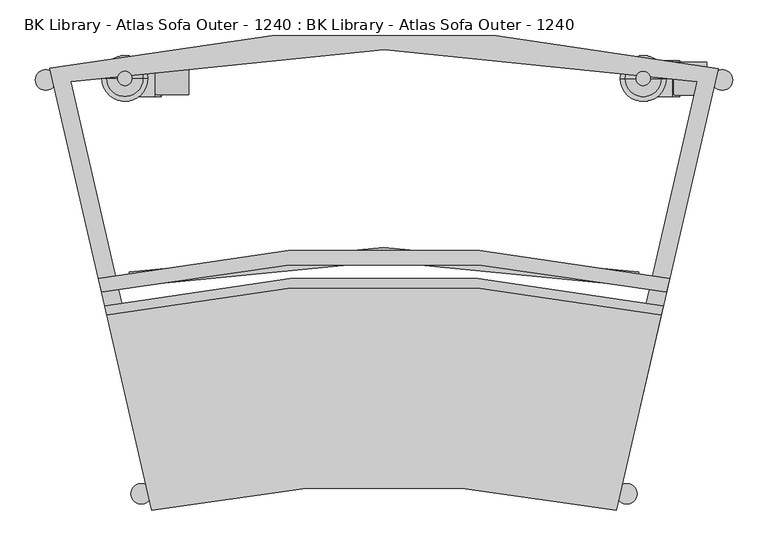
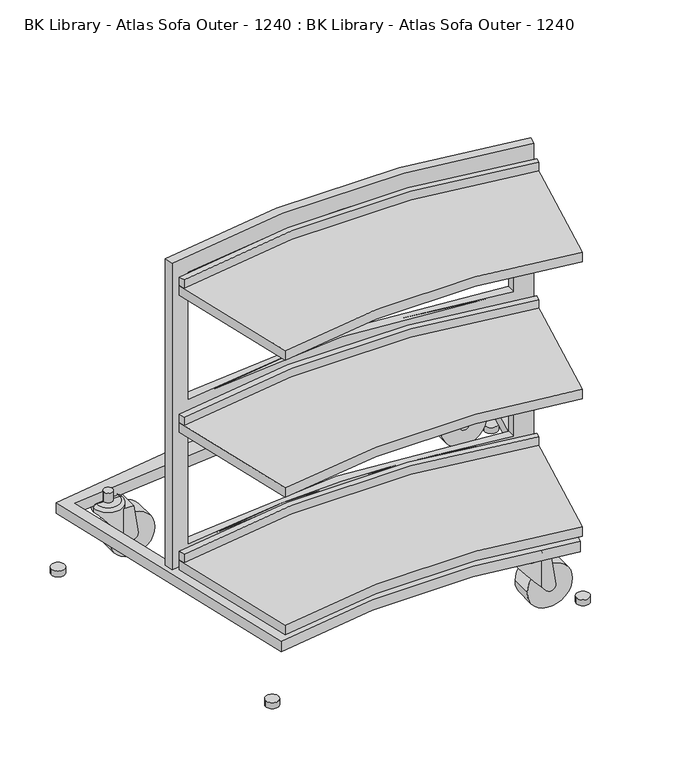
"""IFC4 building model written with IfcOpenShell, lengths in millimetres: furniture geometry, BK Library - Atlas Sofa Outer - 1240 : BK Library - Atlas Sofa Outer - 1240."""

from ifc_helpers import new_model, si_unit, point, frame, frame_2d, origin, origin_with_axes, place, context, project, spatial, polyline, circle_curve, ellipse_curve, trimmed, segment, composite_curve, outline, extrude, source, transform, mapped, element, save
from ifc_brep_helpers import plane_surface, cylinder_surface, revolved_surface, advanced_brep


def bk_library_atlas_sofa_outer_1240_bk_library_atlas_sofa_outer_c0599cd5(model_context):
    return source(origin(), model_context, "Body", "SolidModel", [
        advanced_brep(
        [(209.7505812, -241.350678, 113.1446696), (209.7505812, -267.2971978, 113.1446696), (207.0481733, -254.3239379, 113.1446696), (270.6212072, -279.8412398, 41.8401668), (290.9900774, -279.8412398, 51.0748876), (281.4730575, -279.8412398, 116.3900038), (259.6524577, -279.8412398, 116.3900038), (259.6524577, -279.8412398, 54.6890773), (281.4730575, -228.8995985, 116.3900038), (290.9900774, -228.8995985, 51.0748876), (270.6212072, -228.8995985, 41.8401668), (259.7698407, -228.8995985, 54.5515736), (259.7698407, -228.8995985, 116.3900038), (272.0303981, -254.3239379, 116.3900038), (270.6212072, -277.4827459, 41.8401668), (270.6212072, -231.2580924, 41.8401668), (262.422449, -231.2580924, 51.4442799), (268.358405, -239.3195801, 44.4908375), (268.358405, -254.3239379, 44.4908375), (268.358405, -269.3282957, 44.4908375), (262.328362, -277.4827459, 51.5544945), (290.9900774, -277.4827459, 51.0748876), (290.9900774, -231.2580924, 51.0748876), (281.8358742, -277.4827459, 113.8999998), (281.8358742, -231.2580924, 113.8999998), (262.328362, -277.4827459, 113.8999998), (272.0303981, -254.3239379, 113.8999998), (262.422449, -231.2580924, 113.8999998), (207.0481733, -254.3239379, 121.6226045), (272.0303981, -254.3239379, 121.6226045), (272.0303981, -254.3239379, 44.4908375), (265.0303981, -254.3239379, 128.6226045), (214.0481733, -254.3239379, 128.6226045), (239.5392857, -254.3239379, 128.6226045)],
        [
            (0, 1),
            (1, 2, circle_curve(frame((239.5392857, -254.3239379, 113.1446696), z_axis=(0.0, 0.0, -1.0), x_axis=(-1.0, 0.0, 0.0)), 32.4911124)),
            (2, 0, circle_curve(frame((239.5392857, -254.3239379, 113.1446696), z_axis=(0.0, 0.0, -1.0), x_axis=(-1.0, 0.0, 0.0)), 32.4911124)),
            (3, 4, circle_curve(frame((279.4730731, -279.8412398, 49.3967529), z_axis=(0.0, -1.0, 0.0), x_axis=(1.0, 0.0, 0.0)), 11.6386221)),
            (4, 5),
            (5, 6),
            (6, 7),
            (7, 3),
            (8, 9),
            (9, 10, circle_curve(frame((279.4730731, -228.8995985, 49.3967529), z_axis=(0.0, 1.0, 0.0), x_axis=(1.0, 0.0, 0.0)), 11.6386221)),
            (10, 11),
            (11, 12),
            (12, 8),
            (5, 8),
            (12, 13, circle_curve(frame((239.5392857, -254.3239379, 116.3900038), z_axis=(0.0, 0.0, -1.0), x_axis=(-1.0, 0.0, 0.0)), 32.4911124)),
            (13, 6, circle_curve(frame((239.5392857, -254.3239379, 116.3900038), z_axis=(0.0, 0.0, -1.0), x_axis=(-1.0, 0.0, 0.0)), 32.4911124)),
            (14, 3),
            (7, 1, ellipse_curve(frame((239.5392857, -254.3239379, 78.2498623), z_axis=(-0.7605596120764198, 0.0, -0.6492681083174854), x_axis=(0.6492681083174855, 0.0, -0.7605596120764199)), 50.0426742, 32.4911124)),
            (0, 11, ellipse_curve(frame((239.5392857, -254.3239379, 78.2498623), z_axis=(-0.7605596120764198, 0.0, -0.6492681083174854), x_axis=(0.6492681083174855, 0.0, -0.7605596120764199)), 50.0426742, 32.4911124)),
            (10, 15),
            (15, 16),
            (16, 17, ellipse_curve(frame((239.5392857, -254.3239379, 78.2498623), z_axis=(-0.7605596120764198, 0.0, -0.6492681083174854), x_axis=(0.6492681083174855, 0.0, -0.7605596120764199)), 50.0426742, 32.4911124)),
            (17, 18),
            (18, 19),
            (19, 20, ellipse_curve(frame((239.5392857, -254.3239379, 78.2498623), z_axis=(-0.7605596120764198, 0.0, -0.6492681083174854), x_axis=(0.6492681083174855, 0.0, -0.7605596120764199)), 50.0426742, 32.4911124)),
            (20, 14),
            (14, 21, circle_curve(frame((279.4730731, -277.4827459, 49.3967529), z_axis=(0.0, -1.0, 0.0), x_axis=(1.0, 0.0, 0.0)), 11.6386221)),
            (21, 4),
            (9, 22),
            (22, 15, circle_curve(frame((279.4730731, -231.2580924, 49.3967529), z_axis=(0.0, 1.0, 0.0), x_axis=(1.0, 0.0, 0.0)), 11.6386221)),
            (21, 23),
            (23, 24),
            (24, 22),
            (20, 25),
            (25, 23),
            (25, 26, circle_curve(frame((239.5392857, -254.3239379, 113.8999998), z_axis=(0.0, 0.0, 1.0), x_axis=(-1.0, 0.0, 0.0)), 32.4911124)),
            (26, 27, circle_curve(frame((239.5392857, -254.3239379, 113.8999998), z_axis=(0.0, 0.0, 1.0), x_axis=(-1.0, 0.0, 0.0)), 32.4911124)),
            (27, 24),
            (27, 16),
            (28, 29, circle_curve(frame((239.5392857, -254.3239379, 121.6226045), z_axis=(0.0, 0.0, -1.0), x_axis=(-1.0, 0.0, 0.0)), 32.4911124)),
            (29, 13),
            (2, 28),
            (26, 30),
            (30, 17, circle_curve(frame((239.5392857, -254.3239379, 44.4908375), z_axis=(0.0, 0.0, 1.0), x_axis=(-1.0, 0.0, 0.0)), 32.4911124)),
            (19, 30, circle_curve(frame((239.5392857, -254.3239379, 44.4908375), z_axis=(0.0, 0.0, 1.0), x_axis=(-1.0, 0.0, 0.0)), 32.4911124)),
            (29, 28, circle_curve(frame((239.5392857, -254.3239379, 121.6226045), z_axis=(0.0, 0.0, -1.0), x_axis=(-1.0, 0.0, 0.0)), 32.4911124)),
            (30, 18),
            (31, 32, circle_curve(frame((239.5392857, -254.3239379, 128.6226045), z_axis=(0.0, 0.0, 1.0), x_axis=(-1.0, 0.0, 0.0)), 25.4911124)),
            (32, 33),
            (33, 31),
            (32, 31, circle_curve(frame((239.5392857, -254.3239379, 128.6226045), z_axis=(0.0, 0.0, 1.0), x_axis=(-1.0, 0.0, 0.0)), 25.4911124)),
            (28, 32, circle_curve(frame((214.0481733, -254.3239379, 121.6226045), z_axis=(0.0, 1.0, 0.0), x_axis=(1.0, 0.0, 0.0)), 7.0)),
            (31, 29, circle_curve(frame((265.0303981, -254.3239379, 121.6226045), z_axis=(0.0, 1.0, 0.0), x_axis=(-1.0, 0.0, 0.0)), 7.0)),
        ],
        [
            plane_surface(frame((209.7505812, -336.8261814, 113.1446696), z_axis=(0.0, 0.0, -1.0), x_axis=(0.0, 1.0, 0.0))),
            plane_surface(frame((281.4730575, -279.8412398, 116.3900038), z_axis=(0.0, -1.0, 0.0), x_axis=(-1.0, 0.0, 0.0))),
            plane_surface(frame((281.4730575, -228.8995985, 116.3900038), z_axis=(0.0, 1.0, 0.0), x_axis=(1.0, 0.0, 0.0))),
            plane_surface(frame((281.4730575, -279.8412398, 116.3900038), z_axis=(0.0, 0.0, 1.0), x_axis=(0.0, 1.0, 0.0))),
            plane_surface(frame((236.4730575, -279.8412398, 81.8416749), z_axis=(-0.7605596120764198, 0.0, -0.6492681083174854), x_axis=(0.0, 1.0, 0.0))),
            cylinder_surface(frame((279.4730731, -228.8995985, 49.3967529), z_axis=(0.0, -1.0, 0.0), x_axis=(1.0, 0.0, 0.0)), 11.6386221),
            plane_surface(frame((290.9900774, -279.8412398, 51.0748876), z_axis=(0.9895505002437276, 0.0, 0.14418671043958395), x_axis=(0.0, 1.0, 0.0))),
            plane_surface(frame((305.0673642, -277.4827459, 113.8999998), z_axis=(0.0, 1.0, 0.0), x_axis=(-1.0, 0.0, 0.0))),
            plane_surface(frame((305.0673642, -231.2580924, 113.8999998), z_axis=(0.0, 0.0, -1.0), x_axis=(-1.0, 0.0, 0.0))),
            plane_surface(frame((305.0673642, -231.2580924, 11.6999998), z_axis=(0.0, -1.0, 0.0), x_axis=(-1.0, 0.0, 0.0))),
            cylinder_surface(frame((239.5392857, -254.3239379, 133.8335618), z_axis=(0.0, 0.0, -1.0), x_axis=(-1.0, 0.0, 0.0)), 32.4911124),
            plane_surface(frame((239.5392857, -254.3239379, 44.4908375), z_axis=(0.0, 0.0, -1.0), x_axis=(-1.0, 0.0, 0.0))),
            plane_surface(frame((239.5392857, -254.3239379, 128.6226045), z_axis=(0.0, 0.0, 1.0), x_axis=(-1.0, 0.0, 0.0))),
            revolved_surface(trimmed(ellipse_curve(frame((214.0481733, -254.3239379, 121.6226045), z_axis=(0.0, -1.0, 0.0), x_axis=(1.0, 0.0, 0.0)), 7.0, 7.0), [point((214.0481733, -254.3239379, 128.6226045))], [point((207.0481733, -254.3239379, 121.6226045))], True, "CARTESIAN"), (239.5392857, -254.3239379, 133.8335618), (0.0, 0.0, -1.0)),
        ],
        [
            (0, [[1, 2, 3]]),
            (1, [[4, 5, 6, 7, 8]]),
            (2, [[9, 10, 11, 12, 13]]),
            (3, [[14, -13, 15, 16, -6]]),
            (4, [[17, -8, 18, -1, 19, -11, 20, 21, 22, 23, 24, 25, 26]]),
            (5, [[-4, -17, 27, 28]]),
            (5, [[-10, 29, 30, -20]]),
            (6, [[-5, -28, 31, 32, 33, -29, -9, -14]]),
            (7, [[-27, -26, 34, 35, -31]]),
            (8, [[-32, -35, 36, 37, 38]]),
            (9, [[-30, -33, -38, 39, -21]]),
            (10, [[40, 41, -15, -12, -19, -3, 42]]),
            (10, [[43, 44, -22, -39, -37]]),
            (10, [[-43, -36, -34, -25, 45]]),
            (10, [[46, -42, -2, -18, -7, -16, -41]]),
            (11, [[-44, 47, -23]]),
            (11, [[-47, -45, -24]]),
            (12, [[48, 49, 50]]),
            (12, [[-49, 51, -50]]),
            (13, [[-40, 52, -48, 53]]),
            (13, [[-46, -53, -51, -52]]),
        ],
    ),
        extrude(outline(composite_curve([segment(trimmed(circle_curve(frame_2d((49.3999998, 279.5548478)), 50.0), [point((49.3999998, 229.5548478))], [point((49.3999998, 329.5548478))], False, "CARTESIAN"), True, "CONTINUOUS"), segment(trimmed(circle_curve(frame_2d((49.3999998, 279.5548478)), 50.0), [point((49.3999998, 329.5548478))], [point((49.3999998, 229.5548478))], False, "CARTESIAN"), True, "CONTINUOUS")], self_intersect=False)), frame((0.0, -277.4827459, 0.0), z_axis=(0.0, 1.0, 0.0), x_axis=(0.0, 0.0, 1.0)), (0.0, 0.0, 1.0), 46.2857127),
        extrude(outline(composite_curve([segment(trimmed(circle_curve(frame_2d((239.5392857, -254.3548557)), 10.0), [point((229.5392857, -254.3548557))], [point((249.5392857, -254.3548557))], False, "CARTESIAN"), True, "CONTINUOUS"), segment(trimmed(circle_curve(frame_2d((239.5392857, -254.3548557)), 10.0), [point((249.5392857, -254.3548557))], [point((229.5392857, -254.3548557))], False, "CARTESIAN"), True, "CONTINUOUS")], self_intersect=False)), frame((0.0, 0.0, 126.1999998), z_axis=(0.0, 0.0, 1.0), x_axis=(1.0, 0.0, 0.0)), (0.0, 0.0, 1.0), 24.8998986),
        advanced_brep(
        [(336.1023802, 305.2827462, 113.1446696), (336.1023802, 279.3362264, 113.1446696), (333.3999722, 292.3094863, 113.1446696), (396.9730061, 266.7921844, 41.8401668), (417.3418763, 266.7921844, 51.0748876), (407.8248565, 266.7921844, 116.3900038), (386.0042567, 266.7921844, 116.3900038), (386.0042567, 266.7921844, 54.6890773), (407.8248565, 317.7338257, 116.3900038), (417.3418763, 317.7338257, 51.0748876), (396.9730061, 317.7338257, 41.8401668), (386.1216397, 317.7338257, 54.5515736), (386.1216397, 317.7338257, 116.3900038), (398.3821971, 292.3094863, 116.3900038), (396.9730061, 269.1506783, 41.8401668), (396.9730061, 315.3753318, 41.8401668), (388.7742479, 315.3753318, 51.4442799), (394.7102039, 307.3138441, 44.4908375), (394.7102039, 292.3094863, 44.4908375), (394.7102039, 277.3051285, 44.4908375), (388.6801609, 269.1506783, 51.5544945), (417.3418763, 269.1506783, 51.0748876), (417.3418763, 315.3753318, 51.0748876), (408.1876732, 269.1506783, 113.8999998), (408.1876732, 315.3753318, 113.8999998), (388.6801609, 269.1506783, 113.8999998), (398.3821971, 292.3094863, 113.8999998), (388.7742479, 315.3753318, 113.8999998), (333.3999722, 292.3094863, 121.6226045), (398.3821971, 292.3094863, 121.6226045), (398.3821971, 292.3094863, 44.4908375), (391.3821971, 292.3094863, 128.6226045), (340.3999722, 292.3094863, 128.6226045), (365.8910847, 292.3094863, 128.6226045)],
        [
            (0, 1),
            (1, 2, circle_curve(frame((365.8910847, 292.3094863, 113.1446696), z_axis=(0.0, 0.0, -1.0), x_axis=(-1.0, 0.0, 0.0)), 32.4911124)),
            (2, 0, circle_curve(frame((365.8910847, 292.3094863, 113.1446696), z_axis=(0.0, 0.0, -1.0), x_axis=(-1.0, 0.0, 0.0)), 32.4911124)),
            (3, 4, circle_curve(frame((405.824872, 266.7921844, 49.3967529), z_axis=(0.0, -1.0, 0.0), x_axis=(1.0, 0.0, 0.0)), 11.6386221)),
            (4, 5),
            (5, 6),
            (6, 7),
            (7, 3),
            (8, 9),
            (9, 10, circle_curve(frame((405.824872, 317.7338257, 49.3967529), z_axis=(0.0, 1.0, 0.0), x_axis=(1.0, 0.0, 0.0)), 11.6386221)),
            (10, 11),
            (11, 12),
            (12, 8),
            (5, 8),
            (12, 13, circle_curve(frame((365.8910847, 292.3094863, 116.3900038), z_axis=(0.0, 0.0, -1.0), x_axis=(-1.0, 0.0, 0.0)), 32.4911124)),
            (13, 6, circle_curve(frame((365.8910847, 292.3094863, 116.3900038), z_axis=(0.0, 0.0, -1.0), x_axis=(-1.0, 0.0, 0.0)), 32.4911124)),
            (14, 3),
            (7, 1, ellipse_curve(frame((365.8910847, 292.3094863, 78.2498623), z_axis=(-0.76055961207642, 0.0, -0.649268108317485), x_axis=(0.649268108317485, 0.0, -0.76055961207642)), 50.0426742, 32.4911124)),
            (0, 11, ellipse_curve(frame((365.8910847, 292.3094863, 78.2498623), z_axis=(-0.76055961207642, 0.0, -0.649268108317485), x_axis=(0.649268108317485, 0.0, -0.76055961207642)), 50.0426742, 32.4911124)),
            (10, 15),
            (15, 16),
            (16, 17, ellipse_curve(frame((365.8910847, 292.3094863, 78.2498623), z_axis=(-0.76055961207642, 0.0, -0.649268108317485), x_axis=(0.649268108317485, 0.0, -0.76055961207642)), 50.0426742, 32.4911124)),
            (17, 18),
            (18, 19),
            (19, 20, ellipse_curve(frame((365.8910847, 292.3094863, 78.2498623), z_axis=(-0.76055961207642, 0.0, -0.649268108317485), x_axis=(0.649268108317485, 0.0, -0.76055961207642)), 50.0426742, 32.4911124)),
            (20, 14),
            (14, 21, circle_curve(frame((405.824872, 269.1506783, 49.3967529), z_axis=(0.0, -1.0, 0.0), x_axis=(1.0, 0.0, 0.0)), 11.6386221)),
            (21, 4),
            (9, 22),
            (22, 15, circle_curve(frame((405.824872, 315.3753318, 49.3967529), z_axis=(0.0, 1.0, 0.0), x_axis=(1.0, 0.0, 0.0)), 11.6386221)),
            (21, 23),
            (23, 24),
            (24, 22),
            (20, 25),
            (25, 23),
            (25, 26, circle_curve(frame((365.8910847, 292.3094863, 113.8999998), z_axis=(0.0, 0.0, 1.0), x_axis=(-1.0, 0.0, 0.0)), 32.4911124)),
            (26, 27, circle_curve(frame((365.8910847, 292.3094863, 113.8999998), z_axis=(0.0, 0.0, 1.0), x_axis=(-1.0, 0.0, 0.0)), 32.4911124)),
            (27, 24),
            (27, 16),
            (28, 29, circle_curve(frame((365.8910847, 292.3094863, 121.6226045), z_axis=(0.0, 0.0, -1.0), x_axis=(-1.0, 0.0, 0.0)), 32.4911124)),
            (29, 13),
            (2, 28),
            (26, 30),
            (30, 17, circle_curve(frame((365.8910847, 292.3094863, 44.4908375), z_axis=(0.0, 0.0, 1.0), x_axis=(-1.0, 0.0, 0.0)), 32.4911124)),
            (19, 30, circle_curve(frame((365.8910847, 292.3094863, 44.4908375), z_axis=(0.0, 0.0, 1.0), x_axis=(-1.0, 0.0, 0.0)), 32.4911124)),
            (29, 28, circle_curve(frame((365.8910847, 292.3094863, 121.6226045), z_axis=(0.0, 0.0, -1.0), x_axis=(-1.0, 0.0, 0.0)), 32.4911124)),
            (30, 18),
            (31, 32, circle_curve(frame((365.8910847, 292.3094863, 128.6226045), z_axis=(0.0, 0.0, 1.0), x_axis=(-1.0, 0.0, 0.0)), 25.4911124)),
            (32, 33),
            (33, 31),
            (32, 31, circle_curve(frame((365.8910847, 292.3094863, 128.6226045), z_axis=(0.0, 0.0, 1.0), x_axis=(-1.0, 0.0, 0.0)), 25.4911124)),
            (28, 32, circle_curve(frame((340.3999722, 292.3094863, 121.6226045), z_axis=(0.0, 1.0, 0.0), x_axis=(1.0, 0.0, 0.0)), 7.0)),
            (31, 29, circle_curve(frame((391.3821971, 292.3094863, 121.6226045), z_axis=(0.0, 1.0, 0.0), x_axis=(-1.0, 0.0, 0.0)), 7.0)),
        ],
        [
            plane_surface(frame((336.1023802, 209.8072428, 113.1446696), z_axis=(0.0, 0.0, -1.0), x_axis=(0.0, 1.0, 0.0))),
            plane_surface(frame((407.8248565, 266.7921844, 116.3900038), z_axis=(0.0, -1.0, 0.0), x_axis=(-1.0, 0.0, 0.0))),
            plane_surface(frame((407.8248565, 317.7338257, 116.3900038), z_axis=(0.0, 1.0, 0.0), x_axis=(1.0, 0.0, 0.0))),
            plane_surface(frame((407.8248565, 266.7921844, 116.3900038), z_axis=(0.0, 0.0, 1.0), x_axis=(0.0, 1.0, 0.0))),
            plane_surface(frame((362.8248565, 266.7921844, 81.8416749), z_axis=(-0.76055961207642, 0.0, -0.649268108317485), x_axis=(0.0, 1.0, 0.0))),
            cylinder_surface(frame((405.824872, 317.7338257, 49.3967529), z_axis=(0.0, -1.0, 0.0), x_axis=(1.0, 0.0, 0.0)), 11.6386221),
            plane_surface(frame((417.3418763, 266.7921844, 51.0748876), z_axis=(0.9895505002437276, 0.0, 0.14418671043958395), x_axis=(0.0, 1.0, 0.0))),
            plane_surface(frame((431.4191632, 269.1506783, 113.8999998), z_axis=(0.0, 1.0, 0.0), x_axis=(-1.0, 0.0, 0.0))),
            plane_surface(frame((431.4191632, 315.3753318, 113.8999998), z_axis=(0.0, 0.0, -1.0), x_axis=(-1.0, 0.0, 0.0))),
            plane_surface(frame((431.4191632, 315.3753318, 11.6999998), z_axis=(0.0, -1.0, 0.0), x_axis=(-1.0, 0.0, 0.0))),
            cylinder_surface(frame((365.8910847, 292.3094863, 133.8335618), z_axis=(0.0, 0.0, -1.0), x_axis=(-1.0, 0.0, 0.0)), 32.4911124),
            plane_surface(frame((365.8910847, 292.3094863, 44.4908375), z_axis=(0.0, 0.0, -1.0), x_axis=(-1.0, 0.0, 0.0))),
            plane_surface(frame((365.8910847, 292.3094863, 128.6226045), z_axis=(0.0, 0.0, 1.0), x_axis=(-1.0, 0.0, 0.0))),
            revolved_surface(trimmed(ellipse_curve(frame((340.3999722, 292.3094863, 121.6226045), z_axis=(0.0, -1.0, 0.0), x_axis=(1.0, 0.0, 0.0)), 7.0, 7.0), [point((340.3999722, 292.3094863, 128.6226045))], [point((333.3999722, 292.3094863, 121.6226045))], True, "CARTESIAN"), (365.8910847, 292.3094863, 133.8335618), (0.0, 0.0, -1.0)),
        ],
        [
            (0, [[1, 2, 3]]),
            (1, [[4, 5, 6, 7, 8]]),
            (2, [[9, 10, 11, 12, 13]]),
            (3, [[14, -13, 15, 16, -6]]),
            (4, [[17, -8, 18, -1, 19, -11, 20, 21, 22, 23, 24, 25, 26]]),
            (5, [[-4, -17, 27, 28]]),
            (5, [[-10, 29, 30, -20]]),
            (6, [[-5, -28, 31, 32, 33, -29, -9, -14]]),
            (7, [[-27, -26, 34, 35, -31]]),
            (8, [[-32, -35, 36, 37, 38]]),
            (9, [[-30, -33, -38, 39, -21]]),
            (10, [[40, 41, -15, -12, -19, -3, 42]]),
            (10, [[43, 44, -22, -39, -37]]),
            (10, [[-43, -36, -34, -25, 45]]),
            (10, [[46, -42, -2, -18, -7, -16, -41]]),
            (11, [[-44, 47, -23]]),
            (11, [[-47, -45, -24]]),
            (12, [[48, 49, 50]]),
            (12, [[-49, 51, -50]]),
            (13, [[-40, 52, -48, 53]]),
            (13, [[-46, -53, -51, -52]]),
        ],
    ),
        extrude(outline(composite_curve([segment(trimmed(circle_curve(frame_2d((49.3999998, 405.9066468)), 50.0), [point((49.3999998, 355.9066468))], [point((49.3999998, 455.9066468))], False, "CARTESIAN"), True, "CONTINUOUS"), segment(trimmed(circle_curve(frame_2d((49.3999998, 405.9066468)), 50.0), [point((49.3999998, 455.9066468))], [point((49.3999998, 355.9066468))], False, "CARTESIAN"), True, "CONTINUOUS")], self_intersect=False)), frame((0.0, 269.1506783, 0.0), z_axis=(0.0, 1.0, 0.0), x_axis=(0.0, 0.0, 1.0)), (0.0, 0.0, 1.0), 46.2857127),
        extrude(outline(composite_curve([segment(trimmed(circle_curve(frame_2d((49.3999998, -325.7608412)), 50.0), [point((49.3999998, -375.7608412))], [point((49.3999998, -275.7608412))], False, "CARTESIAN"), True, "CONTINUOUS"), segment(trimmed(circle_curve(frame_2d((49.3999998, -325.7608412)), 50.0), [point((49.3999998, -275.7608412))], [point((49.3999998, -375.7608412))], False, "CARTESIAN"), True, "CONTINUOUS")], self_intersect=False)), frame((0.0, 269.3422284, 0.0), z_axis=(0.0, 1.0, 0.0), x_axis=(0.0, 0.0, 1.0)), (0.0, 0.0, 1.0), 46.2857127),
        extrude(outline(composite_curve([segment(trimmed(circle_curve(frame_2d((365.8910847, 292.2785685)), 10.0), [point((355.8910847, 292.2785685))], [point((375.8910847, 292.2785685))], False, "CARTESIAN"), True, "CONTINUOUS"), segment(trimmed(circle_curve(frame_2d((365.8910847, 292.2785685)), 10.0), [point((375.8910847, 292.2785685))], [point((355.8910847, 292.2785685))], False, "CARTESIAN"), True, "CONTINUOUS")], self_intersect=False)), frame((0.0, 0.0, 126.1999998), z_axis=(0.0, 0.0, 1.0), x_axis=(1.0, 0.0, 0.0)), (0.0, 0.0, 1.0), 24.8998986),
        advanced_brep(
        [(-334.6944819, 266.9837345, 41.8401668), (-314.3256117, 266.9837345, 51.0748876), (-323.8426315, 266.9837345, 116.3900038), (-345.6632313, 266.9837345, 116.3900038), (-345.6632313, 266.9837345, 54.6890773), (-323.8426315, 317.9253758, 116.3900038), (-314.3256117, 317.9253758, 51.0748876), (-334.6944819, 317.9253758, 41.8401668), (-345.5458483, 317.9253758, 54.5515736), (-345.5458483, 317.9253758, 116.3900038), (-333.2852909, 292.5010364, 116.3900038), (-334.6944819, 269.3422284, 41.8401668), (-395.5651078, 279.5277766, 113.1446696), (-395.5651078, 305.4742963, 113.1446696), (-334.6944819, 315.5668819, 41.8401668), (-342.89324, 315.5668819, 51.4442799), (-336.9572841, 307.5053942, 44.4908375), (-336.9572841, 292.5010364, 44.4908375), (-336.9572841, 277.4966786, 44.4908375), (-342.9873271, 269.3422284, 51.5544945), (-314.3256117, 269.3422284, 51.0748876), (-314.3256117, 315.5668819, 51.0748876), (-323.4798148, 269.3422284, 113.8999998), (-323.4798148, 315.5668819, 113.8999998), (-342.9873271, 269.3422284, 113.8999998), (-333.2852909, 292.5010364, 113.8999998), (-342.89324, 315.5668819, 113.8999998), (-398.2675157, 292.5010364, 121.6226045), (-333.2852909, 292.5010364, 121.6226045), (-398.2675157, 292.5010364, 113.1446696), (-333.2852909, 292.5010364, 44.4908375), (-340.2852909, 292.5010364, 128.6226045), (-391.2675157, 292.5010364, 128.6226045), (-365.7764033, 292.5010364, 128.6226045)],
        [
            (0, 1, circle_curve(frame((-325.842616, 266.9837345, 49.3967529), z_axis=(0.0, -1.0, 0.0), x_axis=(1.0, 0.0, 0.0)), 11.6386221)),
            (1, 2),
            (2, 3),
            (3, 4),
            (4, 0),
            (5, 6),
            (6, 7, circle_curve(frame((-325.842616, 317.9253758, 49.3967529), z_axis=(0.0, 1.0, 0.0), x_axis=(1.0, 0.0, 0.0)), 11.6386221)),
            (7, 8),
            (8, 9),
            (9, 5),
            (2, 5),
            (9, 10, circle_curve(frame((-365.7764033, 292.5010364, 116.3900038), z_axis=(0.0, 0.0, -1.0), x_axis=(-1.0, 0.0, 0.0)), 32.4911124)),
            (10, 3, circle_curve(frame((-365.7764033, 292.5010364, 116.3900038), z_axis=(0.0, 0.0, -1.0), x_axis=(-1.0, 0.0, 0.0)), 32.4911124)),
            (11, 0),
            (4, 12, ellipse_curve(frame((-365.7764033, 292.5010364, 78.2498623), z_axis=(-0.76055961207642, 0.0, -0.649268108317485), x_axis=(0.649268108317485, 0.0, -0.76055961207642)), 50.0426742, 32.4911124)),
            (12, 13),
            (13, 8, ellipse_curve(frame((-365.7764033, 292.5010364, 78.2498623), z_axis=(-0.76055961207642, 0.0, -0.649268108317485), x_axis=(0.649268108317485, 0.0, -0.76055961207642)), 50.0426742, 32.4911124)),
            (7, 14),
            (14, 15),
            (15, 16, ellipse_curve(frame((-365.7764033, 292.5010364, 78.2498623), z_axis=(-0.76055961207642, 0.0, -0.649268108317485), x_axis=(0.649268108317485, 0.0, -0.76055961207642)), 50.0426742, 32.4911124)),
            (16, 17),
            (17, 18),
            (18, 19, ellipse_curve(frame((-365.7764033, 292.5010364, 78.2498623), z_axis=(-0.76055961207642, 0.0, -0.649268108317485), x_axis=(0.649268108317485, 0.0, -0.76055961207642)), 50.0426742, 32.4911124)),
            (19, 11),
            (11, 20, circle_curve(frame((-325.842616, 269.3422284, 49.3967529), z_axis=(0.0, -1.0, 0.0), x_axis=(1.0, 0.0, 0.0)), 11.6386221)),
            (20, 1),
            (6, 21),
            (21, 14, circle_curve(frame((-325.842616, 315.5668819, 49.3967529), z_axis=(0.0, 1.0, 0.0), x_axis=(1.0, 0.0, 0.0)), 11.6386221)),
            (20, 22),
            (22, 23),
            (23, 21),
            (19, 24),
            (24, 22),
            (24, 25, circle_curve(frame((-365.7764033, 292.5010364, 113.8999998), z_axis=(0.0, 0.0, 1.0), x_axis=(-1.0, 0.0, 0.0)), 32.4911124)),
            (25, 26, circle_curve(frame((-365.7764033, 292.5010364, 113.8999998), z_axis=(0.0, 0.0, 1.0), x_axis=(-1.0, 0.0, 0.0)), 32.4911124)),
            (26, 23),
            (26, 15),
            (27, 28, circle_curve(frame((-365.7764033, 292.5010364, 121.6226045), z_axis=(0.0, 0.0, -1.0), x_axis=(-1.0, 0.0, 0.0)), 32.4911124)),
            (28, 10),
            (13, 29, circle_curve(frame((-365.7764033, 292.5010364, 113.1446696), z_axis=(0.0, 0.0, 1.0), x_axis=(-1.0, 0.0, 0.0)), 32.4911124)),
            (29, 27),
            (30, 16, circle_curve(frame((-365.7764033, 292.5010364, 44.4908375), z_axis=(0.0, 0.0, 1.0), x_axis=(-1.0, 0.0, 0.0)), 32.4911124)),
            (25, 30),
            (28, 27, circle_curve(frame((-365.7764033, 292.5010364, 121.6226045), z_axis=(0.0, 0.0, -1.0), x_axis=(-1.0, 0.0, 0.0)), 32.4911124)),
            (29, 12, circle_curve(frame((-365.7764033, 292.5010364, 113.1446696), z_axis=(0.0, 0.0, 1.0), x_axis=(-1.0, 0.0, 0.0)), 32.4911124)),
            (18, 30, circle_curve(frame((-365.7764033, 292.5010364, 44.4908375), z_axis=(0.0, 0.0, 1.0), x_axis=(-1.0, 0.0, 0.0)), 32.4911124)),
            (30, 17),
            (31, 32, circle_curve(frame((-365.7764033, 292.5010364, 128.6226045), z_axis=(0.0, 0.0, 1.0), x_axis=(-1.0, 0.0, 0.0)), 25.4911124)),
            (32, 33),
            (33, 31),
            (32, 31, circle_curve(frame((-365.7764033, 292.5010364, 128.6226045), z_axis=(0.0, 0.0, 1.0), x_axis=(-1.0, 0.0, 0.0)), 25.4911124)),
            (27, 32, circle_curve(frame((-391.2675157, 292.5010364, 121.6226045), z_axis=(0.0, 1.0, 0.0), x_axis=(1.0, 0.0, 0.0)), 7.0)),
            (31, 28, circle_curve(frame((-340.2852909, 292.5010364, 121.6226045), z_axis=(0.0, 1.0, 0.0), x_axis=(-1.0, 0.0, 0.0)), 7.0)),
        ],
        [
            plane_surface(frame((-323.8426315, 266.9837345, 116.3900038), z_axis=(0.0, -1.0, 0.0), x_axis=(-1.0, 0.0, 0.0))),
            plane_surface(frame((-323.8426315, 317.9253758, 116.3900038), z_axis=(0.0, 1.0, 0.0), x_axis=(1.0, 0.0, 0.0))),
            plane_surface(frame((-323.8426315, 266.9837345, 116.3900038), z_axis=(0.0, 0.0, 1.0), x_axis=(0.0, 1.0, 0.0))),
            plane_surface(frame((-368.8426315, 266.9837345, 81.8416749), z_axis=(-0.76055961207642, 0.0, -0.649268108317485), x_axis=(0.0, 1.0, 0.0))),
            cylinder_surface(frame((-325.842616, 317.9253758, 49.3967529), z_axis=(0.0, -1.0, 0.0), x_axis=(1.0, 0.0, 0.0)), 11.6386221),
            plane_surface(frame((-314.3256117, 266.9837345, 51.0748876), z_axis=(0.9895505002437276, 0.0, 0.14418671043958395), x_axis=(0.0, 1.0, 0.0))),
            plane_surface(frame((-300.2483248, 269.3422284, 113.8999998), z_axis=(0.0, 1.0, 0.0), x_axis=(-1.0, 0.0, 0.0))),
            plane_surface(frame((-300.2483248, 315.5668819, 113.8999998), z_axis=(0.0, 0.0, -1.0), x_axis=(-1.0, 0.0, 0.0))),
            plane_surface(frame((-300.2483248, 315.5668819, 11.6999998), z_axis=(0.0, -1.0, 0.0), x_axis=(-1.0, 0.0, 0.0))),
            cylinder_surface(frame((-365.7764033, 292.5010364, 133.8335618), z_axis=(0.0, 0.0, -1.0), x_axis=(-1.0, 0.0, 0.0)), 32.4911124),
            plane_surface(frame((-365.7764033, 292.5010364, 44.4908375), z_axis=(0.0, 0.0, -1.0), x_axis=(-1.0, 0.0, 0.0))),
            plane_surface(frame((-365.7764033, 292.5010364, 128.6226045), z_axis=(0.0, 0.0, 1.0), x_axis=(-1.0, 0.0, 0.0))),
            revolved_surface(trimmed(ellipse_curve(frame((-391.2675157, 292.5010364, 121.6226045), z_axis=(0.0, -1.0, 0.0), x_axis=(1.0, 0.0, 0.0)), 7.0, 7.0), [point((-391.2675157, 292.5010364, 128.6226045))], [point((-398.2675157, 292.5010364, 121.6226045))], True, "CARTESIAN"), (-365.7764033, 292.5010364, 133.8335618), (0.0, 0.0, -1.0)),
            plane_surface(frame((-395.5651078, 209.9987929, 113.1446696), z_axis=(0.0, 0.0, -1.0), x_axis=(0.0, 1.0, 0.0))),
        ],
        [
            (0, [[1, 2, 3, 4, 5]]),
            (1, [[6, 7, 8, 9, 10]]),
            (2, [[11, -10, 12, 13, -3]]),
            (3, [[14, -5, 15, 16, 17, -8, 18, 19, 20, 21, 22, 23, 24]]),
            (4, [[-1, -14, 25, 26]]),
            (4, [[-7, 27, 28, -18]]),
            (5, [[-2, -26, 29, 30, 31, -27, -6, -11]]),
            (6, [[-25, -24, 32, 33, -29]]),
            (7, [[-30, -33, 34, 35, 36]]),
            (8, [[-28, -31, -36, 37, -19]]),
            (9, [[38, 39, -12, -9, -17, 40, 41]]),
            (9, [[42, -20, -37, -35, 43]]),
            (9, [[44, -41, 45, -15, -4, -13, -39]]),
            (9, [[46, -43, -34, -32, -23]]),
            (10, [[-42, 47, -21]]),
            (10, [[-47, -46, -22]]),
            (11, [[48, 49, 50]]),
            (11, [[-49, 51, -50]]),
            (12, [[-38, 52, -48, 53]]),
            (12, [[-44, -53, -51, -52]]),
            (13, [[-16, -45, -40]]),
        ],
    ),
        extrude(outline(composite_curve([segment(trimmed(circle_curve(frame_2d((-365.7764033, 292.4701186)), 10.0), [point((-375.7764033, 292.4701186))], [point((-355.7764033, 292.4701186))], False, "CARTESIAN"), True, "CONTINUOUS"), segment(trimmed(circle_curve(frame_2d((-365.7764033, 292.4701186)), 10.0), [point((-355.7764033, 292.4701186))], [point((-375.7764033, 292.4701186))], False, "CARTESIAN"), True, "CONTINUOUS")], self_intersect=False)), frame((0.0, 0.0, 126.1999998), z_axis=(0.0, 0.0, 1.0), x_axis=(1.0, 0.0, 0.0)), (0.0, 0.0, 1.0), 24.8998986),
        extrude(outline(composite_curve([segment(trimmed(circle_curve(frame_2d((-0.1289567, -1789.54304)), 2148.52767), [point((-471.6391631, 306.6080219))], [point((471.6410197, 306.549572))], False, "CARTESIAN"), True, "CONTINUOUS"), segment(polyline([(471.6410197, 306.549572), (330.6052405, -305.0739935)]), True, "CONTINUOUS"), segment(trimmed(circle_curve(frame_2d((5.2928449, -1828.3638627)), 1557.6392973), [point((330.6052405, -305.0739935))], [point((-330.0861441, -307.2586348))], True, "CARTESIAN"), True, "CONTINUOUS"), segment(polyline([(-330.0861441, -307.2586348), (-471.6391631, 306.6080219)]), True, "CONTINUOUS")], self_intersect=False), holes=[composite_curve([segment(trimmed(circle_curve(frame_2d((0.0, -1803.8543755)), 1557.9492408), [point((-311.3398697, -277.3310961))], [point((311.3398697, -277.3310961))], False, "CARTESIAN"), True, "CONTINUOUS"), segment(polyline([(311.3398697, -277.3310961), (441.81755, 287.9820793)]), True, "CONTINUOUS"), segment(trimmed(circle_curve(frame_2d((0.0, -1860.8084472)), 2193.7418887), [point((441.81755, 287.9820793))], [point((-441.81755, 287.9820793))], True, "CARTESIAN"), True, "CONTINUOUS"), segment(polyline([(-441.81755, 287.9820793), (-311.3398697, -277.3310961)]), True, "CONTINUOUS")], self_intersect=False)]), frame((0.0, 0.0, 126.2197818), z_axis=(0.0, 0.0, 1.0), x_axis=(1.0, 0.0, 0.0)), (0.0, 0.0, 1.0), 24.8801166),
        advanced_brep(
        [(-403.1922937, 9.7442892, 876.1999998), (-398.6983746, -9.7442892, 876.1999998), (398.6983746, -9.7442892, 876.1999998), (403.1922937, 9.7442892, 876.1999998), (-403.1922937, 9.7442892, 161.1999998), (403.1922937, 9.7442892, 161.1999998), (398.6983746, -9.7442892, 161.1999998), (-398.6983746, -9.7442892, 161.1999998), (359.7000463, -1.6061954, 836.1999998), (359.7000463, -1.6061954, 538.6999998), (-359.7212176, -1.6103769, 538.6999998), (-359.7212176, -1.6103769, 836.1999998), (-359.7212176, -1.6103769, 498.6999998), (359.7000463, -1.6061954, 498.6999998), (359.7000463, -1.6061954, 201.1999998), (-359.7212176, -1.6103769, 201.1999998), (359.7000463, 18.8192746, 538.6999998), (359.7000463, 18.8192746, 836.1999998), (-359.7212176, 18.8151191, 836.1999998), (-359.7212176, 18.8151191, 538.6999998), (359.7000463, 18.8192746, 498.6999998), (-359.7212176, 18.8151191, 498.6999998), (-359.7212176, 18.8151191, 201.1999998), (359.7000463, 18.8192746, 201.1999998)],
        [
            (0, 1),
            (1, 2, circle_curve(frame((0.0, -1822.824997, 876.1999998), z_axis=(0.0, 0.0, -1.0), x_axis=(1.0, 0.0, 0.0)), 1856.4002927)),
            (2, 3),
            (3, 0, circle_curve(frame((0.0, -1813.8149651, 876.1999998), z_axis=(0.0, 0.0, 1.0), x_axis=(1.0, 0.0, 0.0)), 1867.6007014)),
            (4, 5, circle_curve(frame((0.0, -1813.8149651, 161.1999998), z_axis=(0.0, 0.0, -1.0), x_axis=(1.0, 0.0, 0.0)), 1867.6007014)),
            (5, 6),
            (6, 7, circle_curve(frame((0.0, -1822.824997, 161.1999998), z_axis=(0.0, 0.0, 1.0), x_axis=(1.0, 0.0, 0.0)), 1856.4002927)),
            (7, 4),
            (0, 4),
            (7, 1),
            (2, 6),
            (5, 3),
            (8, 9),
            (9, 10, circle_curve(frame((0.0, -1822.824997, 538.6999998), z_axis=(0.0, 0.0, 1.0), x_axis=(1.0, 0.0, 0.0)), 1856.4002927)),
            (10, 11),
            (11, 8, circle_curve(frame((0.0, -1822.824997, 836.1999998), z_axis=(0.0, 0.0, -1.0), x_axis=(1.0, 0.0, 0.0)), 1856.4002927)),
            (12, 13, circle_curve(frame((0.0, -1822.824997, 498.6999998), z_axis=(0.0, 0.0, -1.0), x_axis=(1.0, 0.0, 0.0)), 1856.4002927)),
            (13, 14),
            (14, 15, circle_curve(frame((0.0, -1822.824997, 201.1999998), z_axis=(0.0, 0.0, 1.0), x_axis=(1.0, 0.0, 0.0)), 1856.4002927)),
            (15, 12),
            (16, 17),
            (17, 18, circle_curve(frame((0.0, -1813.8149651, 836.1999998), z_axis=(0.0, 0.0, 1.0), x_axis=(1.0, 0.0, 0.0)), 1867.6007014)),
            (18, 19),
            (19, 16, circle_curve(frame((0.0, -1813.8149651, 538.6999998), z_axis=(0.0, 0.0, -1.0), x_axis=(1.0, 0.0, 0.0)), 1867.6007014)),
            (20, 21, circle_curve(frame((0.0, -1813.8149651, 498.6999998), z_axis=(0.0, 0.0, 1.0), x_axis=(1.0, 0.0, 0.0)), 1867.6007014)),
            (21, 22),
            (22, 23, circle_curve(frame((0.0, -1813.8149651, 201.1999998), z_axis=(0.0, 0.0, -1.0), x_axis=(1.0, 0.0, 0.0)), 1867.6007014)),
            (23, 20),
            (16, 9),
            (8, 17),
            (11, 18),
            (10, 19),
            (20, 13),
            (12, 21),
            (15, 22),
            (14, 23),
        ],
        [
            plane_surface(frame((-326.7956683, -321.5615447, 876.1999998), z_axis=(0.0, 0.0, 1.0), x_axis=(0.224695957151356, -0.9744289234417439, 0.0))),
            plane_surface(frame((-326.7956683, -321.5615447, 161.1999998), z_axis=(0.0, 0.0, -1.0), x_axis=(-0.224695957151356, 0.9744289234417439, 0.0))),
            plane_surface(frame((-403.1922937, 9.7442892, 876.1999998), z_axis=(-0.9744289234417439, -0.224695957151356, 0.0), x_axis=(0.0, 0.0, -1.0))),
            plane_surface(frame((398.6983746, -9.7442892, 876.1999998), z_axis=(0.974428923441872, -0.22469595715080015, 0.0), x_axis=(0.0, 0.0, -1.0))),
            revolved_surface(polyline([(1856.4002927, -1822.824997, 161.1999998), (1856.4002927, -1822.824997, 876.1999998)]), (0.0, -1822.824997, 161.1999998), (0.0, 0.0, -1.0)),
            cylinder_surface(frame((0.0, -1813.8149651, 161.1999998), z_axis=(0.0, 0.0, 1.0), x_axis=(1.0, 0.0, 0.0)), 1867.6007014),
            plane_surface(frame((359.7000463, -114.4923923, 538.6999998), z_axis=(-1.0, 0.0, 0.0), x_axis=(0.0, 1.0, 0.0))),
            plane_surface(frame((359.7000463, -114.4923923, 836.1999998), z_axis=(0.0, 0.0, -1.0), x_axis=(0.0, 1.0, 0.0))),
            plane_surface(frame((-359.7212176, -114.4923923, 836.1999998), z_axis=(1.0, 0.0, 0.0), x_axis=(0.0, 1.0, 0.0))),
            plane_surface(frame((-359.7212176, -114.4923923, 538.6999998), z_axis=(0.0, 0.0, 1.0), x_axis=(0.0, 1.0, 0.0))),
            plane_surface(frame((359.7000463, -114.4923923, 498.6999998), z_axis=(0.0, 0.0, -1.0), x_axis=(0.0, 1.0, 0.0))),
            plane_surface(frame((-359.7212176, -114.4923923, 498.6999998), z_axis=(1.0, 0.0, 0.0), x_axis=(0.0, 1.0, 0.0))),
            plane_surface(frame((-359.7212176, -114.4923923, 201.1999998), z_axis=(0.0, 0.0, 1.0), x_axis=(0.0, 1.0, 0.0))),
            plane_surface(frame((359.7000463, -114.4923923, 201.1999998), z_axis=(-1.0, 0.0, 0.0), x_axis=(0.0, 1.0, 0.0))),
        ],
        [
            (0, [[1, 2, 3, 4]]),
            (1, [[5, 6, 7, 8]]),
            (2, [[-1, 9, -8, 10]]),
            (3, [[-3, 11, -6, 12]]),
            (4, [[-2, -10, -7, -11], [13, 14, 15, 16], [17, 18, 19, 20]]),
            (5, [[-4, -12, -5, -9], [21, 22, 23, 24], [25, 26, 27, 28]]),
            (6, [[29, -13, 30, -21]]),
            (7, [[-30, -16, 31, -22]]),
            (8, [[-31, -15, 32, -23]]),
            (9, [[-29, -24, -32, -14]]),
            (10, [[33, -17, 34, -25]]),
            (11, [[-34, -20, 35, -26]]),
            (12, [[-35, -19, 36, -27]]),
            (13, [[-33, -28, -36, -18]]),
        ],
    ),
        extrude(outline(composite_curve([segment(trimmed(circle_curve(frame_2d((0.0, -1840.4430404)), 1557.6392973), [point((327.6944521, -317.663829))], [point((-327.6944521, -317.663829))], True, "CARTESIAN"), True, "CONTINUOUS"), segment(polyline([(-327.6944521, -317.663829), (-394.2058088, -29.2269986)]), True, "CONTINUOUS"), segment(trimmed(circle_curve(frame_2d((0.0, -1785.1487517)), 1799.627579), [point((-394.2058088, -29.2269986))], [point((394.2058088, -29.2269986))], False, "CARTESIAN"), True, "CONTINUOUS"), segment(polyline([(394.2058088, -29.2269986), (327.6944521, -317.663829)]), True, "CONTINUOUS")], self_intersect=False)), frame((0.0, 0.0, 171.6999998), z_axis=(0.0, 0.0, 1.0), x_axis=(1.0, 0.0, 0.0)), (0.0, 0.0, 1.0), 22.0),
        extrude(outline(composite_curve([segment(trimmed(circle_curve(frame_2d((0.0, -1840.4430404)), 1557.6392973), [point((327.6944521, -317.663829))], [point((-327.6944521, -317.663829))], True, "CARTESIAN"), True, "CONTINUOUS"), segment(polyline([(-327.6944521, -317.663829), (-394.2058088, -29.2269986)]), True, "CONTINUOUS"), segment(trimmed(circle_curve(frame_2d((0.0, -1785.1487517)), 1799.627579), [point((-394.2058088, -29.2269986))], [point((394.2058088, -29.2269986))], False, "CARTESIAN"), True, "CONTINUOUS"), segment(polyline([(394.2058088, -29.2269986), (327.6944521, -317.663829)]), True, "CONTINUOUS")], self_intersect=False)), frame((0.0, 0.0, 491.6999998), z_axis=(0.0, 0.0, 1.0), x_axis=(1.0, 0.0, 0.0)), (0.0, 0.0, 1.0), 22.0),
        extrude(outline(composite_curve([segment(trimmed(circle_curve(frame_2d((0.0, -1840.4430404)), 1557.6392973), [point((327.6944521, -317.663829))], [point((-327.6944521, -317.663829))], True, "CARTESIAN"), True, "CONTINUOUS"), segment(polyline([(-327.6944521, -317.663829), (-394.2058088, -29.2269986)]), True, "CONTINUOUS"), segment(trimmed(circle_curve(frame_2d((0.0, -1785.1487517)), 1799.627579), [point((-394.2058088, -29.2269986))], [point((394.2058088, -29.2269986))], False, "CARTESIAN"), True, "CONTINUOUS"), segment(polyline([(394.2058088, -29.2269986), (327.6944521, -317.663829)]), True, "CONTINUOUS")], self_intersect=False)), frame((0.0, 0.0, 811.6999998), z_axis=(0.0, 0.0, 1.0), x_axis=(1.0, 0.0, 0.0)), (0.0, 0.0, 1.0), 22.0),
        extrude(outline(composite_curve([segment(trimmed(circle_curve(frame_2d((0.0, -1785.1487517)), 1799.627579), [point((-394.2058088, -29.2269986))], [point((394.2058088, -29.2269986))], False, "CARTESIAN"), True, "CONTINUOUS"), segment(polyline([(394.2058088, -29.2269986), (391.2848087, -41.8943694)]), True, "CONTINUOUS"), segment(trimmed(circle_curve(frame_2d((0.0, -1790.5831955)), 1791.9309172), [point((391.2848087, -41.8943694))], [point((-391.2848087, -41.8943694))], True, "CARTESIAN"), True, "CONTINUOUS"), segment(polyline([(-391.2848087, -41.8943694), (-394.2058088, -29.2269986)]), True, "CONTINUOUS")], self_intersect=False)), frame((0.0, 0.0, 193.6999998), z_axis=(0.0, 0.0, 1.0), x_axis=(1.0, 0.0, 0.0)), (0.0, 0.0, 1.0), 20.0),
        extrude(outline(composite_curve([segment(trimmed(circle_curve(frame_2d((0.0, -1785.1487517)), 1799.627579), [point((-394.2058088, -29.2269986))], [point((394.2058088, -29.2269986))], False, "CARTESIAN"), True, "CONTINUOUS"), segment(polyline([(394.2058088, -29.2269986), (391.2848087, -41.8943694)]), True, "CONTINUOUS"), segment(trimmed(circle_curve(frame_2d((0.0, -1790.5831955)), 1791.9309172), [point((391.2848087, -41.8943694))], [point((-391.2848087, -41.8943694))], True, "CARTESIAN"), True, "CONTINUOUS"), segment(polyline([(-391.2848087, -41.8943694), (-394.2058088, -29.2269986)]), True, "CONTINUOUS")], self_intersect=False)), frame((0.0, 0.0, 513.6999998), z_axis=(0.0, 0.0, 1.0), x_axis=(1.0, 0.0, 0.0)), (0.0, 0.0, 1.0), 20.0),
        extrude(outline(composite_curve([segment(trimmed(circle_curve(frame_2d((0.0, -1785.1487517)), 1799.627579), [point((-394.2058088, -29.2269986))], [point((394.2058088, -29.2269986))], False, "CARTESIAN"), True, "CONTINUOUS"), segment(polyline([(394.2058088, -29.2269986), (391.2848087, -41.8943694)]), True, "CONTINUOUS"), segment(trimmed(circle_curve(frame_2d((0.0, -1790.5831955)), 1791.9309172), [point((391.2848087, -41.8943694))], [point((-391.2848087, -41.8943694))], True, "CARTESIAN"), True, "CONTINUOUS"), segment(polyline([(-391.2848087, -41.8943694), (-394.2058088, -29.2269986)]), True, "CONTINUOUS")], self_intersect=False)), frame((0.0, 0.0, 833.6999998), z_axis=(0.0, 0.0, 1.0), x_axis=(1.0, 0.0, 0.0)), (0.0, 0.0, 1.0), 20.0),
        extrude(outline(composite_curve([segment(trimmed(circle_curve(frame_2d((477.608406, 290.1883722)), 14.4994573), [point((492.1078633, 290.1883722))], [point((463.1089486, 290.1883722))], False, "CARTESIAN"), True, "CONTINUOUS"), segment(trimmed(circle_curve(frame_2d((477.608406, 290.1883722)), 14.4994573), [point((463.1089486, 290.1883722))], [point((492.1078633, 290.1883722))], False, "CARTESIAN"), True, "CONTINUOUS")], self_intersect=False)), origin_with_axes(), (0.0, 0.0, 1.0), 13.6999998),
        extrude(outline(composite_curve([segment(trimmed(circle_curve(frame_2d((-477.608406, 290.1883722)), 14.4994573), [point((-492.1078633, 290.1883722))], [point((-463.1089486, 290.1883722))], False, "CARTESIAN"), True, "CONTINUOUS"), segment(trimmed(circle_curve(frame_2d((-477.608406, 290.1883722)), 14.4994573), [point((-463.1089486, 290.1883722))], [point((-492.1078633, 290.1883722))], False, "CARTESIAN"), True, "CONTINUOUS")], self_intersect=False)), origin_with_axes(), (0.0, 0.0, 1.0), 13.6999998),
        extrude(outline(composite_curve([segment(trimmed(circle_curve(frame_2d((342.7923392, -294.4590973)), 14.4994573), [point((357.2917965, -294.4590973))], [point((328.2928818, -294.4590973))], False, "CARTESIAN"), True, "CONTINUOUS"), segment(trimmed(circle_curve(frame_2d((342.7923392, -294.4590973)), 14.4994573), [point((328.2928818, -294.4590973))], [point((357.2917965, -294.4590973))], False, "CARTESIAN"), True, "CONTINUOUS")], self_intersect=False)), origin_with_axes(), (0.0, 0.0, 1.0), 13.6999998),
        extrude(outline(composite_curve([segment(trimmed(circle_curve(frame_2d((-342.7923392, -294.4590973)), 14.4994573), [point((-357.2917965, -294.4590973))], [point((-328.2928818, -294.4590973))], False, "CARTESIAN"), True, "CONTINUOUS"), segment(trimmed(circle_curve(frame_2d((-342.7923392, -294.4590973)), 14.4994573), [point((-328.2928818, -294.4590973))], [point((-357.2917965, -294.4590973))], False, "CARTESIAN"), True, "CONTINUOUS")], self_intersect=False)), origin_with_axes(), (0.0, 0.0, 1.0), 13.6999998),
    ])


if __name__ == "__main__":
    model = new_model("IFC4")
    model_context = context("Model", 3, world=origin())
    ifc_project = project(units=[si_unit("LENGTHUNIT", "METRE", prefix="MILLI")], contexts=[model_context])
    site = spatial("IfcSite", under=ifc_project)
    building = spatial("IfcBuilding", under=site)
    placement = place(None, origin())
    bk_library_atlas_sofa_outer_1240_bk_library_atlas_sofa_outer_shape = bk_library_atlas_sofa_outer_1240_bk_library_atlas_sofa_outer_c0599cd5(model_context)
    element("IfcFurniture", 1, ObjectType="BK Library - Atlas Sofa Outer - 1240 : BK Library - Atlas Sofa Outer - 1240", at=placement, inside=building, context=model_context, shape_type="MappedRepresentation", body=[
        mapped(bk_library_atlas_sofa_outer_1240_bk_library_atlas_sofa_outer_shape, transform((0.0, 0.0, 0.0), x_axis=(1.0, 0.0, 0.0), y_axis=(0.0, 1.0, 0.0), z_axis=(0.0, 0.0, 1.0))),
    ])
    save(model, "model.ifc")
